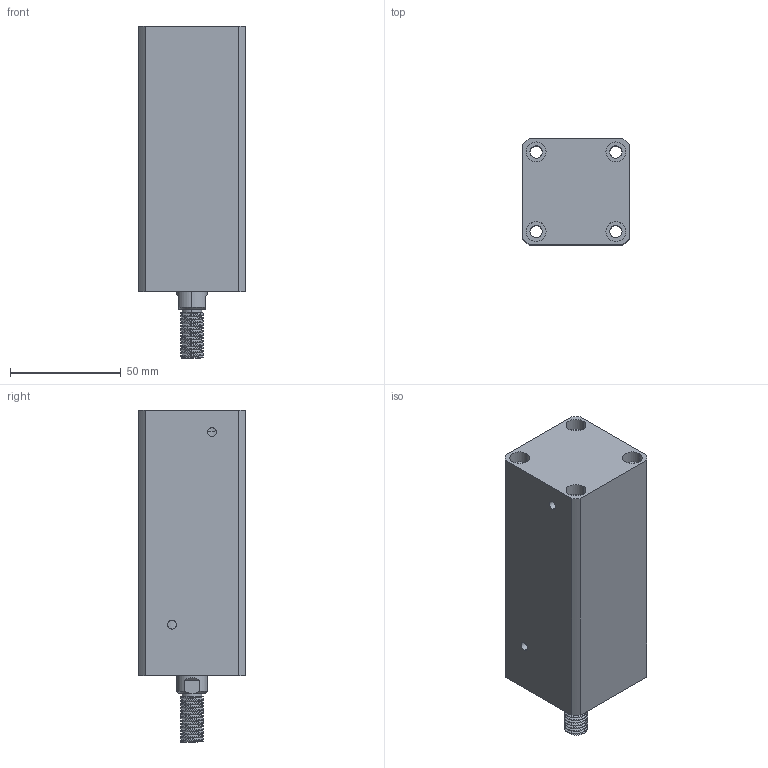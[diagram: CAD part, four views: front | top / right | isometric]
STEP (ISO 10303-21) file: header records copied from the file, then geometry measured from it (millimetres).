
FILE_DESCRIPTION (( 'STEP AP214' ), '1' );
FILE_NAME ('chtb-sdma25x75w_asm.STEP', '2018-05-22T07:39:26', ( 'Windows' ), ( 'Microsoft' ), 'SwSTEP 2.0', 'SolidWorks 2015', '' );
FILE_SCHEMA (( 'AUTOMOTIVE_DESIGN' ));
Length unit declared in the file: millimetre
Products named in the file (4): CHTB-SDMA25X75WHSG; CHTB-SDMA25X75NBT; CHTB-25QG; chtb-sdma25x75w_asm
Assembly tree (3 placements, depth 2):
  chtb-sdma25x75w_asm
    CHTB-25QG
    CHTB-SDMA25X75NBT
    CHTB-SDMA25X75WHSG
Bounding box: 48 x 48 x 150 mm (x, y, z)
Volume: 236792.1 mm3; surface area: 59384.1 mm2
Topology: 3 solids, 3 shells, 177 faces, 479 edges, 325 vertices
Faces by surface type: cylinder 117, plane 38, bspline 12, cone 10
Entity records: 10676 total; most frequent: CARTESIAN_POINT 6329, ORIENTED_EDGE 950, DIRECTION 772, EDGE_CURVE 475, VERTEX_POINT 325, AXIS2_PLACEMENT_3D 312, EDGE_LOOP 216, FACE_OUTER_BOUND 177
